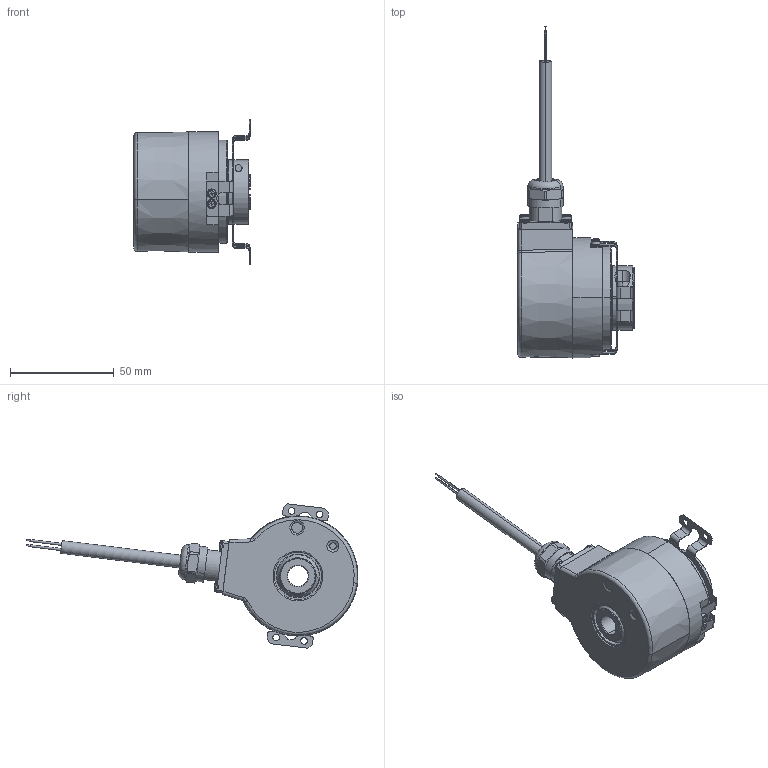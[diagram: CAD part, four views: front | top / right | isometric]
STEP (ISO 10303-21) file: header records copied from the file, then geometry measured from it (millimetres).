
FILE_DESCRIPTION (( 'STEP AP214' ), '1' );
FILE_NAME ('5834SIL.B3X2.XXXX.STEP', '2010-11-18T12:54:49', ( 'admin' ), ( 'Fritz Kübler GmbH' ), 'SwSTEP 2.0', 'SolidWorks 2009', '' );
FILE_SCHEMA (( 'AUTOMOTIVE_DESIGN' ));
Length unit declared in the file: millimetre
Products named in the file (1): 5834SIL.B3X2.XXXX
Bounding box: 56 x 160.21 x 69.69 mm (x, y, z)
Surface area: 28836.4 mm2 (no closed solid volume)
Topology: 0 solids, 21 shells, 492 faces, 1369 edges, 888 vertices
Faces by surface type: plane 236, cylinder 149, cone 64, torus 28, sphere 8, bspline 7
Entity records: 22466 total; most frequent: CARTESIAN_POINT 4264, DIRECTION 2810, ORIENTED_EDGE 2449, EDGE_CURVE 1369, AXIS2_PLACEMENT_3D 1052, VERTEX_POINT 888, VECTOR 706, LINE 706
